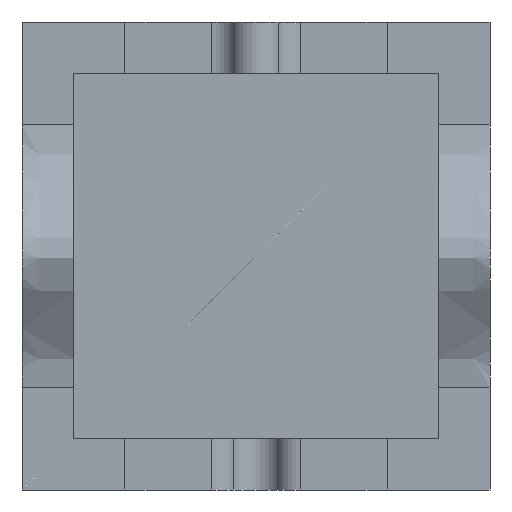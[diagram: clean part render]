
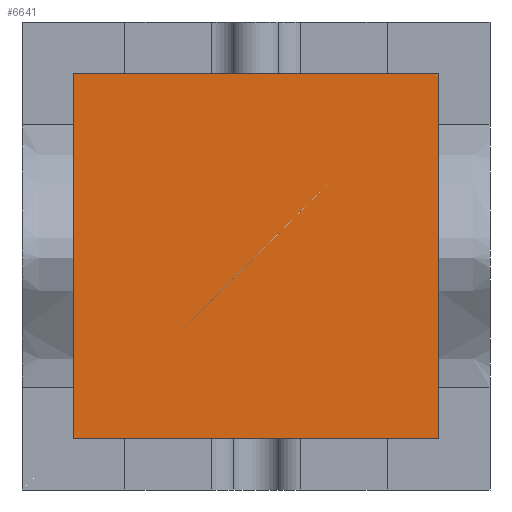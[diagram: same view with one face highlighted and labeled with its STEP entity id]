
A CAD part, front view. The second image highlights one B-rep face of the part: STEP entity #6641.
In plain terms, the highlighted planar face has unit normal (0, -1, 0).
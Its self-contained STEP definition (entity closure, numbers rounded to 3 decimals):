
#6515=CARTESIAN_POINT('Vertex',(-20.,-30.,-20.)) ;
#6520=CARTESIAN_POINT('Line Origine',(-20.,-30.,51.)) ;
#6524=CARTESIAN_POINT('Vertex',(-20.,-30.,122.)) ;
#6551=CARTESIAN_POINT('Line Origine',(51.,-30.,122.)) ;
#6555=CARTESIAN_POINT('Vertex',(122.,-30.,122.)) ;
#6582=CARTESIAN_POINT('Line Origine',(122.,-30.,51.)) ;
#6586=CARTESIAN_POINT('Vertex',(122.,-30.,-20.)) ;
#6613=CARTESIAN_POINT('Line Origine',(51.,-30.,-20.)) ;
#6630=CARTESIAN_POINT('Axis2P3D Location',(0.,-30.,0.)) ;
#6521=DIRECTION('Vector Direction',(0.,0.,-1.)) ;
#6552=DIRECTION('Vector Direction',(1.,0.,0.)) ;
#6583=DIRECTION('Vector Direction',(0.,0.,1.)) ;
#6614=DIRECTION('Vector Direction',(-1.,0.,0.)) ;
#6631=DIRECTION('Axis2P3D Direction',(0.,1.,0.)) ;
#6632=DIRECTION('Axis2P3D XDirection',(-1.,0.,0.)) ;
#6633=AXIS2_PLACEMENT_3D('Plane Axis2P3D',#6630,#6631,#6632) ;
#6636=ORIENTED_EDGE('',*,*,#6617,.F.) ;
#6637=ORIENTED_EDGE('',*,*,#6588,.F.) ;
#6638=ORIENTED_EDGE('',*,*,#6557,.F.) ;
#6639=ORIENTED_EDGE('',*,*,#6526,.F.) ;
#6522=VECTOR('Line Direction',#6521,1.) ;
#6553=VECTOR('Line Direction',#6552,1.) ;
#6584=VECTOR('Line Direction',#6583,1.) ;
#6615=VECTOR('Line Direction',#6614,1.) ;
#6641=ADVANCED_FACE('Cavity-molde',(#6640),#6634,.F.) ;
#6526=EDGE_CURVE('',#6516,#6525,#6523,.F.) ;
#6557=EDGE_CURVE('',#6525,#6556,#6554,.T.) ;
#6588=EDGE_CURVE('',#6556,#6587,#6585,.F.) ;
#6617=EDGE_CURVE('',#6587,#6516,#6616,.T.) ;
#6635=EDGE_LOOP('',(#6636,#6637,#6638,#6639)) ;
#6640=FACE_OUTER_BOUND('',#6635,.T.) ;
#6523=LINE('Line',#6520,#6522) ;
#6554=LINE('Line',#6551,#6553) ;
#6585=LINE('Line',#6582,#6584) ;
#6616=LINE('Line',#6613,#6615) ;
#6634=PLANE('',#6633) ;
#6516=VERTEX_POINT('',#6515) ;
#6525=VERTEX_POINT('',#6524) ;
#6556=VERTEX_POINT('',#6555) ;
#6587=VERTEX_POINT('',#6586) ;
